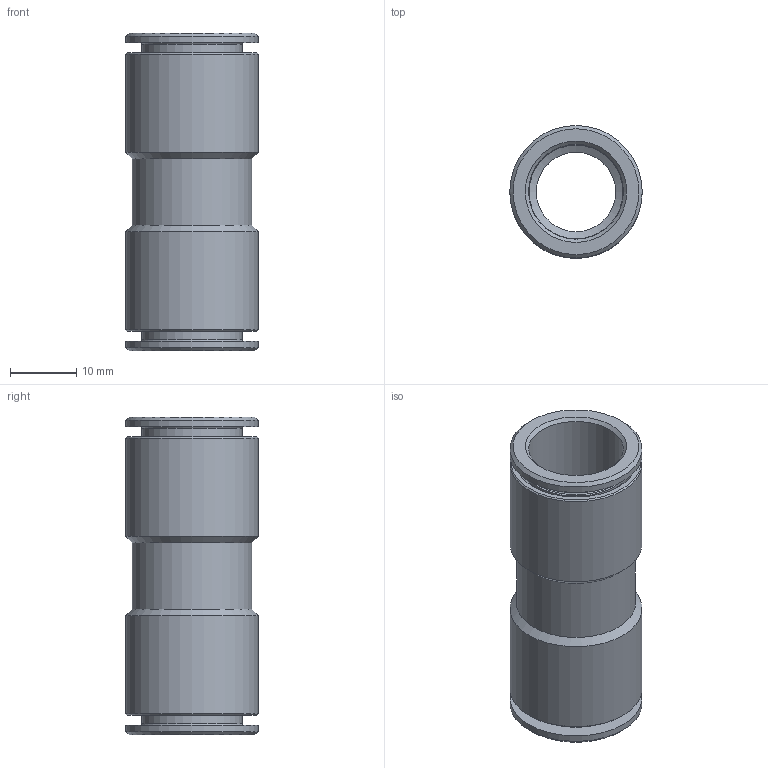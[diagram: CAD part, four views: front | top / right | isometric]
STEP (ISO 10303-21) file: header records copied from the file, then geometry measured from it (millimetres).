
FILE_DESCRIPTION(('Bauteilbeschreibung','HiCAD-Model','HiCAD-STEP-TRANSLATION','Bauteilbeschreibung'),'2;1');
FILE_NAME('B:/ABGLEICH/ZEICHNUNGEN/STEP FÜR INTERNET/STEP/200307_IPSO_03_14.STP','2011-07-18T15:55:39+00:00',('Konstrukteur'),('Konstrukteur Firma GmbH'),' HiCAD neXt 2008, Step 3.1.1401.2J ','HiCAD neXt 2008','confidential');
FILE_SCHEMA(('AUTOMOTIVE_DESIGN { 1 2 10303 214 0 1 1 1 }'));
Length unit declared in the file: millimetre
Products named in the file (4): A00307_IPSO_03_14; DR14_5; DR1405; R200307
Assembly tree (3 placements, depth 2):
  A00307_IPSO_03_14
    DR14_5
    DR1405
    R200307
Bounding box: 20 x 20 x 48 mm (x, y, z)
Volume: 5236.7 mm3; surface area: 8554.4 mm2
Topology: 3 solids, 3 shells, 66 faces, 126 edges, 72 vertices
Faces by surface type: cone 24, cylinder 22, plane 12, torus 8
Full cylindrical faces by diameter (mm): 12 x1, 14.15 x2, 14.3 x2, 15.1 x2, 15.2 x2, 16.2 x2, 16.5 x2, 17.3 x2, 18 x1, 18.1 x2, 20 x4
Entity records: 1771 total; most frequent: DIRECTION 276, CARTESIAN_POINT 204, AXIS2_PLACEMENT_3D 138, EDGE_LOOP 132, ORIENTED_EDGE 132, COLOUR_RGB 69, PRESENTATION_STYLE_ASSIGNMENT 69, ADVANCED_FACE 66
